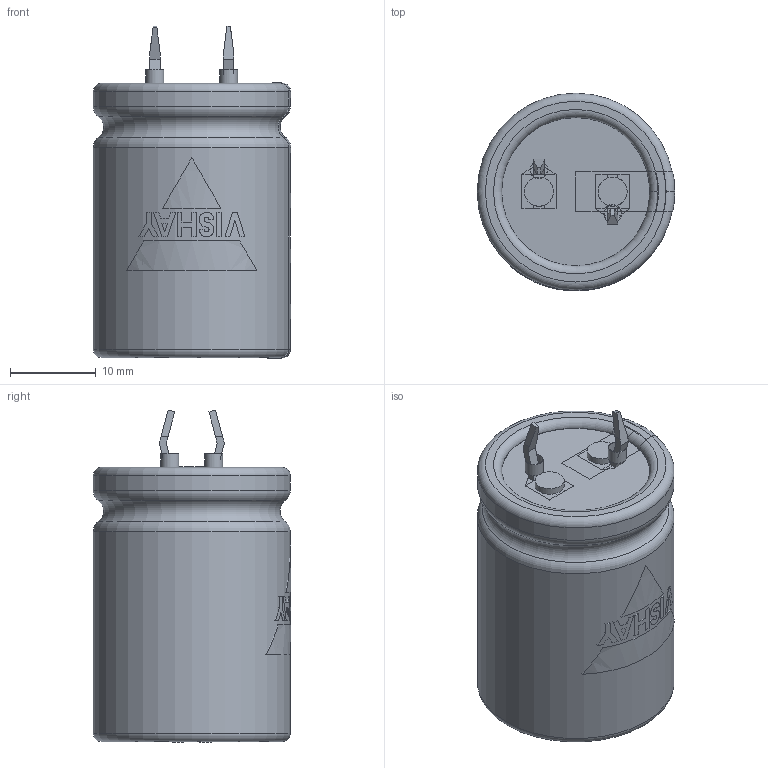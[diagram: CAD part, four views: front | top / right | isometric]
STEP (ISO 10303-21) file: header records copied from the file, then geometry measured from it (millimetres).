
FILE_DESCRIPTION(('FreeCAD Model'),'2;1');
FILE_NAME( 'C:/Users/Gebruiker/Documents/FreeCAD/SnapIn_22x30_2pin_5.8.step', '2020-11-12T19:49:31',('Author'),(''), 'Open CASCADE STEP processor 6.8','FreeCAD','Unknown');
FILE_SCHEMA(('AUTOMOTIVE_DESIGN_CC2 { 1 2 10303 214 -1 1 5 4 }'));
Length unit declared in the file: millimetre
Products named in the file (9): ASSEMBLY; TerminalMin; TerminalPlus; PCBHoles; Disc; BottomInsulation; Can3D; InkMinusBar; InkLogo
Assembly tree (8 placements, depth 2):
  ASSEMBLY
    TerminalMin
    TerminalPlus
    PCBHoles
    Disc
    BottomInsulation
    Can3D
    InkMinusBar
    InkLogo
Bounding box: 23.05 x 23.05 x 38.75 mm (x, y, z)
Volume: 14948.1 mm3; surface area: 7598.6 mm2
Topology: 16 solids, 16 shells, 193 faces, 473 edges, 310 vertices
Faces by surface type: plane 146, cylinder 29, torus 18
Full cylindrical faces by diameter (mm): 2 x2, 2.1 x2, 3.4 x2, 17.3 x1, 18.4 x2, 23 x2
Entity records: 20014 total; most frequent: CARTESIAN_POINT 9421, DIRECTION 1648, ORIENTED_EDGE 946, PCURVE 946, DEFINITIONAL_REPRESENTATION 946, LINE 916, VECTOR 916, EDGE_CURVE 473
